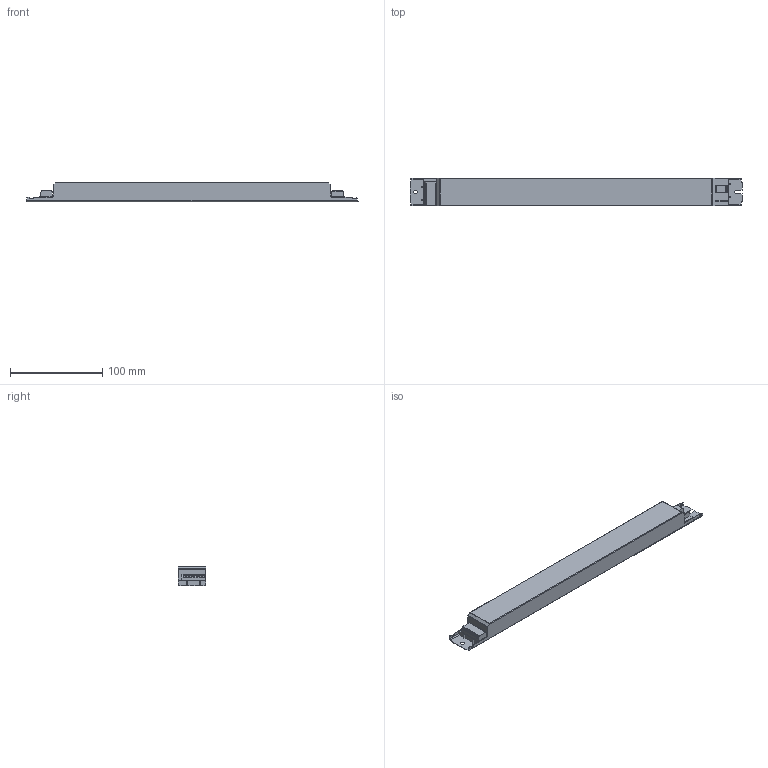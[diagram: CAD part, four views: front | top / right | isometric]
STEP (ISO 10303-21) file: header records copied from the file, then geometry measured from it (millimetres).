
FILE_DESCRIPTION((''),'2;1');
FILE_NAME('15013913Z_MERCURY360X30X21_72AN','2021-07-21T11:58:52',('Juergen.Hrach'),(''),'CREO PARAMETRIC BY PTC INC, 2019164','CREO PARAMETRIC BY PTC INC, 2019164','');
FILE_SCHEMA(('CONFIG_CONTROL_DESIGN'));
Length unit declared in the file: millimetre
Products named in the file (1): 15013913Z_MERCURY360X30X21_72AN
Bounding box: 360 x 30 x 21 mm (x, y, z)
Volume: 196972.5 mm3; surface area: 36386.8 mm2
Topology: 1 solids, 1 shells, 174 faces, 499 edges, 330 vertices
Faces by surface type: plane 93, cylinder 81
Entity records: 5923 total; most frequent: CARTESIAN_POINT 1294, ORIENTED_EDGE 998, DIRECTION 929, EDGE_CURVE 499, VERTEX_POINT 330, VECTOR 315, LINE 315, AXIS2_PLACEMENT_3D 307
